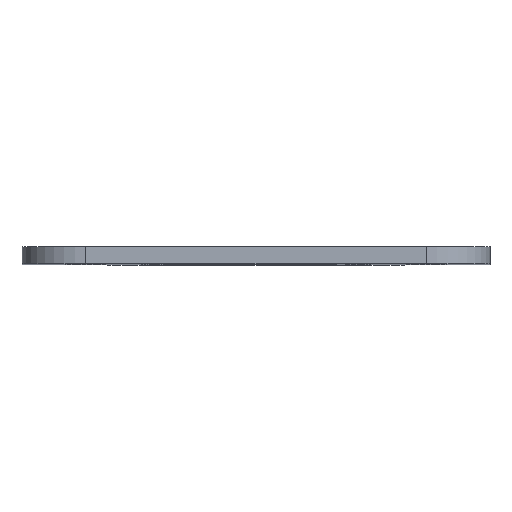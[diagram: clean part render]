
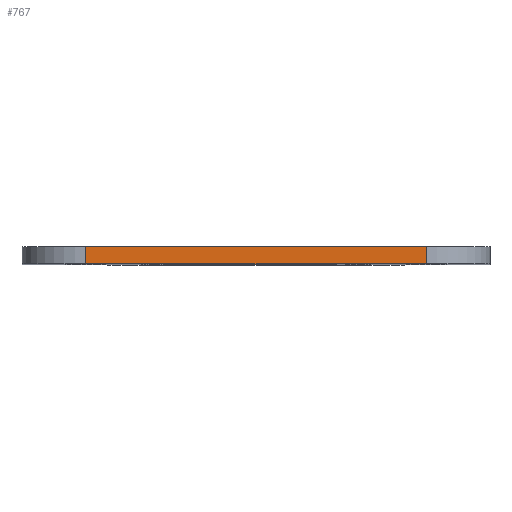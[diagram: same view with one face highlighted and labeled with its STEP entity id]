
A CAD part, top view. The second image highlights one B-rep face of the part: STEP entity #767.
In plain terms, the highlighted planar face has unit normal (0, 0, 1).
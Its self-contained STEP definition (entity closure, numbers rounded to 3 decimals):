
#59=PLANE('',#869);
#93=FACE_OUTER_BOUND('',#137,.T.);
#137=EDGE_LOOP('',(#673,#674,#675,#676));
#183=LINE('',#1211,#243);
#202=LINE('',#1301,#262);
#206=LINE('',#1310,#266);
#208=LINE('',#1314,#268);
#243=VECTOR('',#983,10.);
#262=VECTOR('',#1078,10.);
#266=VECTOR('',#1088,10.);
#268=VECTOR('',#1094,10.);
#356=VERTEX_POINT('',#1208);
#357=VERTEX_POINT('',#1210);
#390=VERTEX_POINT('',#1299);
#391=VERTEX_POINT('',#1306);
#448=EDGE_CURVE('',#357,#356,#183,.T.);
#493=EDGE_CURVE('',#390,#356,#202,.T.);
#498=EDGE_CURVE('',#357,#391,#206,.T.);
#500=EDGE_CURVE('',#391,#390,#208,.T.);
#673=ORIENTED_EDGE('',*,*,#493,.F.);
#674=ORIENTED_EDGE('',*,*,#500,.F.);
#675=ORIENTED_EDGE('',*,*,#498,.F.);
#676=ORIENTED_EDGE('',*,*,#448,.T.);
#767=ADVANCED_FACE('',(#93),#59,.T.);
#869=AXIS2_PLACEMENT_3D('',#1313,#1092,#1093);
#983=DIRECTION('',(1.,0.,0.));
#1078=DIRECTION('',(0.,-1.,0.));
#1088=DIRECTION('',(0.,1.,0.));
#1092=DIRECTION('center_axis',(0.,0.,1.));
#1093=DIRECTION('ref_axis',(1.,0.,0.));
#1094=DIRECTION('',(1.,0.,0.));
#1208=CARTESIAN_POINT('',(40.,0.,85.));
#1210=CARTESIAN_POINT('',(-40.,0.,85.));
#1211=CARTESIAN_POINT('',(-55.,0.,85.));
#1299=CARTESIAN_POINT('',(40.,4.,85.));
#1301=CARTESIAN_POINT('',(40.,0.,85.));
#1306=CARTESIAN_POINT('',(-40.,4.,85.));
#1310=CARTESIAN_POINT('',(-40.,0.,85.));
#1313=CARTESIAN_POINT('Origin',(-55.,0.,85.));
#1314=CARTESIAN_POINT('',(-55.,4.,85.));
